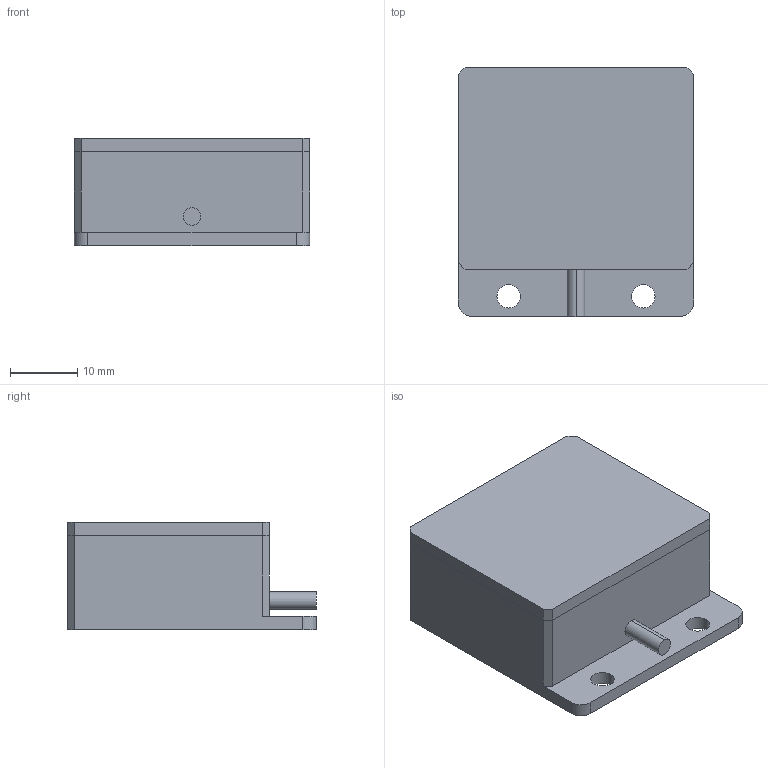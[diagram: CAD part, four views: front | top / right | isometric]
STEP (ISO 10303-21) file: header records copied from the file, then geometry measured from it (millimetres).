
FILE_DESCRIPTION (( 'STEP AP203' ), '1' );
FILE_NAME ('PPX-BO3030-W.STEP', '2021-10-25T05:48:20', ( 'Windows 蚚誧' ), ( 'Microsoft' ), 'SwSTEP 2.0', 'SolidWorks 2016', '' );
FILE_SCHEMA (( 'CONFIG_CONTROL_DESIGN' ));
Length unit declared in the file: millimetre
Products named in the file (1): PPX-BO3030-W
Bounding box: 35 x 37 x 16 mm (x, y, z)
Volume: 13610.4 mm3; surface area: 7352.8 mm2
Topology: 2 solids, 2 shells, 36 faces, 90 edges, 60 vertices
Faces by surface type: plane 28, cylinder 8
Entity records: 1153 total; most frequent: CARTESIAN_POINT 187, ORIENTED_EDGE 180, DIRECTION 180, EDGE_CURVE 90, LINE 74, VECTOR 74, VERTEX_POINT 60, AXIS2_PLACEMENT_3D 53
